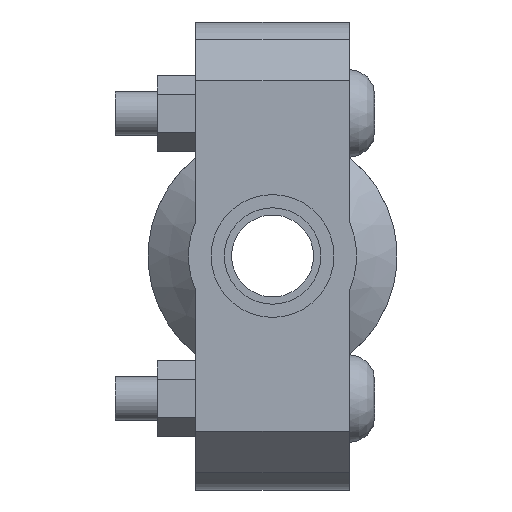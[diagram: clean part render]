
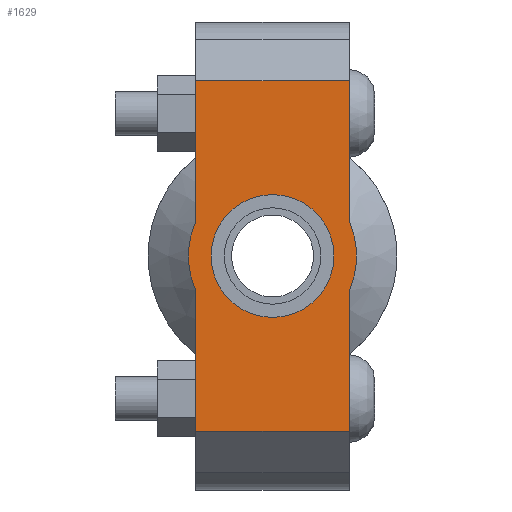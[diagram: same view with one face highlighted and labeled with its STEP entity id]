
A CAD part, left-side view. The second image highlights one B-rep face of the part: STEP entity #1629.
In plain terms, the highlighted planar face has unit normal (-1, 0, 0) as drawn and (0, 0, 1) by its records, which use the part's own axes.
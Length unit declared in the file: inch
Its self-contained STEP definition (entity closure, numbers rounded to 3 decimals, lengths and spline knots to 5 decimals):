
#184=LINE('',#2817,#281);
#199=LINE('',#2876,#296);
#207=LINE('',#2906,#304);
#209=LINE('',#2909,#306);
#210=LINE('',#2914,#307);
#211=LINE('',#2915,#308);
#281=VECTOR('',#2289,0.3937);
#296=VECTOR('',#2324,0.3937);
#304=VECTOR('',#2344,0.3937);
#306=VECTOR('',#2348,0.3937);
#307=VECTOR('',#2353,0.3937);
#308=VECTOR('',#2354,0.3937);
#372=FACE_BOUND('',#549,.T.);
#440=FACE_OUTER_BOUND('',#548,.T.);
#548=EDGE_LOOP('',(#1330,#1331,#1332,#1333,#1334,#1335,#1336,#1337));
#549=EDGE_LOOP('',(#1338));
#631=CIRCLE('',#1857,0.525);
#655=CIRCLE('',#1909,0.719);
#656=CIRCLE('',#1910,0.719);
#727=VERTEX_POINT('',#2643);
#768=VERTEX_POINT('',#2814);
#769=VERTEX_POINT('',#2816);
#790=VERTEX_POINT('',#2871);
#791=VERTEX_POINT('',#2875);
#800=VERTEX_POINT('',#2901);
#801=VERTEX_POINT('',#2905);
#802=VERTEX_POINT('',#2911);
#803=VERTEX_POINT('',#2913);
#891=EDGE_CURVE('',#727,#727,#631,.T.);
#948=EDGE_CURVE('',#769,#768,#184,.T.);
#973=EDGE_CURVE('',#791,#790,#199,.T.);
#986=EDGE_CURVE('',#801,#800,#207,.T.);
#988=EDGE_CURVE('',#801,#768,#209,.T.);
#989=EDGE_CURVE('',#800,#802,#655,.T.);
#990=EDGE_CURVE('',#802,#803,#210,.T.);
#991=EDGE_CURVE('',#791,#803,#211,.T.);
#992=EDGE_CURVE('',#790,#769,#656,.T.);
#1330=ORIENTED_EDGE('',*,*,#988,.F.);
#1331=ORIENTED_EDGE('',*,*,#986,.T.);
#1332=ORIENTED_EDGE('',*,*,#989,.T.);
#1333=ORIENTED_EDGE('',*,*,#990,.T.);
#1334=ORIENTED_EDGE('',*,*,#991,.F.);
#1335=ORIENTED_EDGE('',*,*,#973,.T.);
#1336=ORIENTED_EDGE('',*,*,#992,.T.);
#1337=ORIENTED_EDGE('',*,*,#948,.T.);
#1338=ORIENTED_EDGE('',*,*,#891,.T.);
#1469=PLANE('',#1908);
#1629=ADVANCED_FACE('',(#440,#372),#1469,.T.);
#1857=AXIS2_PLACEMENT_3D('',#2645,#2179,#2180);
#1908=AXIS2_PLACEMENT_3D('',#2910,#2349,#2350);
#1909=AXIS2_PLACEMENT_3D('',#2912,#2351,#2352);
#1910=AXIS2_PLACEMENT_3D('',#2916,#2355,#2356);
#2179=DIRECTION('center_axis',(0.,0.,-1.));
#2180=DIRECTION('ref_axis',(-1.,0.,0.));
#2289=DIRECTION('',(-1.,0.,0.));
#2324=DIRECTION('',(-1.,0.,0.));
#2344=DIRECTION('',(1.,0.,0.));
#2348=DIRECTION('',(0.,1.,0.));
#2349=DIRECTION('center_axis',(0.,0.,1.));
#2350=DIRECTION('ref_axis',(1.,0.,0.));
#2351=DIRECTION('center_axis',(0.,0.,1.));
#2352=DIRECTION('ref_axis',(-1.,0.,0.));
#2353=DIRECTION('',(1.,0.,0.));
#2354=DIRECTION('',(0.,-1.,0.));
#2355=DIRECTION('center_axis',(0.,0.,1.));
#2356=DIRECTION('ref_axis',(-1.,0.,0.));
#2643=CARTESIAN_POINT('',(0.525,0.,0.875));
#2645=CARTESIAN_POINT('Origin',(0.,0.,0.875));
#2814=CARTESIAN_POINT('',(-1.5,0.656,0.875));
#2816=CARTESIAN_POINT('',(-0.29432,0.656,0.875));
#2817=CARTESIAN_POINT('',(2.,0.656,0.875));
#2871=CARTESIAN_POINT('',(0.29432,0.656,0.875));
#2875=CARTESIAN_POINT('',(1.5,0.656,0.875));
#2876=CARTESIAN_POINT('',(2.,0.656,0.875));
#2901=CARTESIAN_POINT('',(-0.29432,-0.656,0.875));
#2905=CARTESIAN_POINT('',(-1.5,-0.656,0.875));
#2906=CARTESIAN_POINT('',(-2.,-0.656,0.875));
#2909=CARTESIAN_POINT('',(-1.5,0.328,0.875));
#2910=CARTESIAN_POINT('Origin',(0.,0.,
0.875));
#2911=CARTESIAN_POINT('',(0.29432,-0.656,0.875));
#2912=CARTESIAN_POINT('Origin',(0.,0.,0.875));
#2913=CARTESIAN_POINT('',(1.5,-0.656,0.875));
#2914=CARTESIAN_POINT('',(-2.,-0.656,0.875));
#2915=CARTESIAN_POINT('',(1.5,-0.328,0.875));
#2916=CARTESIAN_POINT('Origin',(0.,0.,0.875));
